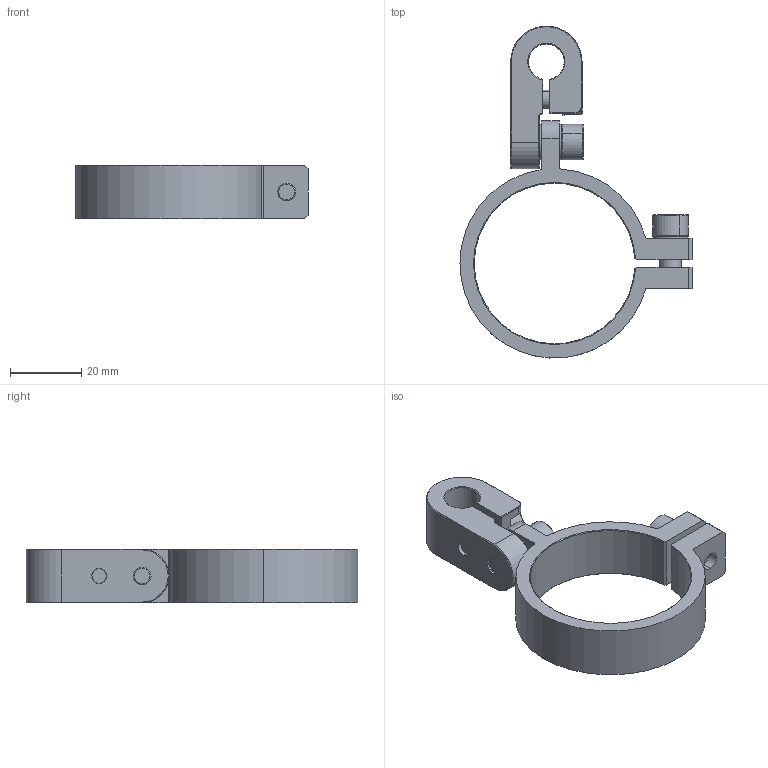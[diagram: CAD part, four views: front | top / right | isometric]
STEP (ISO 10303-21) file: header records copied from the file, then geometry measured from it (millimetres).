
FILE_DESCRIPTION (( 'STEP AP214' ), '1' );
FILE_NAME ('SCE-NR20-D10.STEP', '2021-03-19T01:48:13', ( '微软用户' ), ( '微软中国' ), 'SwSTEP 2.0', 'SolidWorks 2018', '' );
FILE_SCHEMA (( 'AUTOMOTIVE_DESIGN' ));
Length unit declared in the file: millimetre
Products named in the file (8): 2.Y05465; SCE-NR20-D10; 2.Y08265; PTS-M6; PTS-M5; PTC-M6L14; PTC-M6L12; PTC-M5L14
Assembly tree (9 placements, depth 2):
  SCE-NR20-D10
    2.Y05465
    PTC-M5L14
    PTC-M6L12
    PTC-M6L14
    PTS-M5
    PTS-M6  x3
    2.Y08265
Bounding box: 65 x 92.96 x 15 mm (x, y, z)
Volume: 20021.1 mm3; surface area: 13255.6 mm2
Topology: 9 solids, 9 shells, 947 faces, 2706 edges, 1775 vertices
Faces by surface type: plane 852, cylinder 60, cone 29, torus 6
Entity records: 18343 total; most frequent: DIRECTION 3185, CARTESIAN_POINT 3144, ORIENTED_EDGE 3092, EDGE_CURVE 1546, AXIS2_PLACEMENT_3D 1080, LINE 1025, VECTOR 1025, VERTEX_POINT 1007
